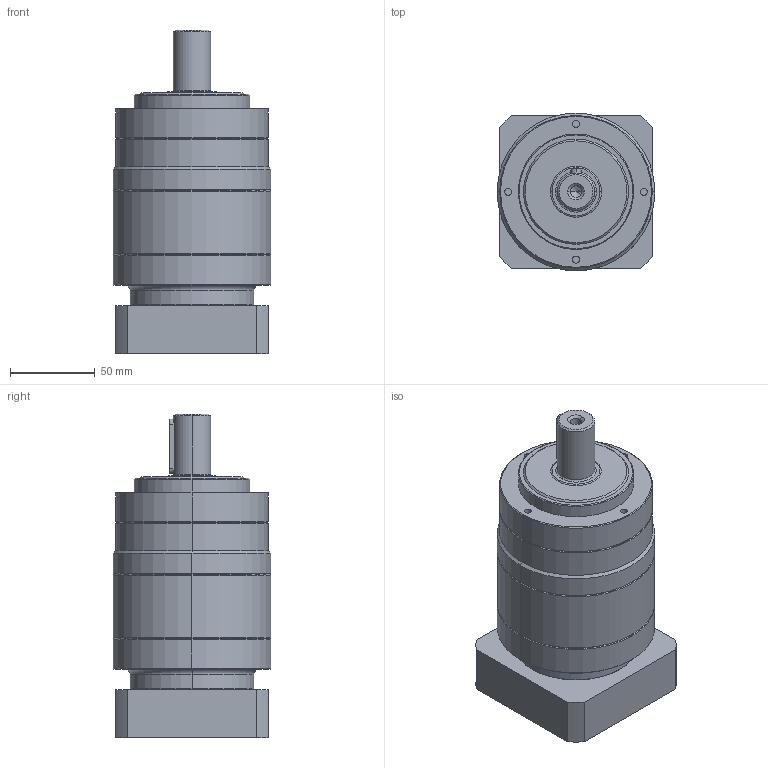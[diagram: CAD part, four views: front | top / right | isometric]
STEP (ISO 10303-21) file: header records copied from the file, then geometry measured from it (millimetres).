
FILE_DESCRIPTION (( 'STEP AP214' ), '1' );
FILE_NAME ('VRL-090-L2-S2-P1 19-70-90-M5.STEP', '2023-08-17T08:00:37', ( '微软用户' ), ( '微软中国' ), 'SwSTEP 2.0', 'SolidWorks 2018', '' );
FILE_SCHEMA (( 'AUTOMOTIVE_DESIGN' ));
Length unit declared in the file: millimetre
Products named in the file (1): VRL-090-L2-S2-P1 19-70-90-M5
Bounding box: 93 x 93 x 191 mm (x, y, z)
Volume: 952246.8 mm3; surface area: 81100.1 mm2
Topology: 1 solids, 1 shells, 115 faces, 245 edges, 149 vertices
Faces by surface type: cylinder 49, cone 30, plane 30, torus 6
Entity records: 3211 total; most frequent: DIRECTION 605, CARTESIAN_POINT 571, ORIENTED_EDGE 486, AXIS2_PLACEMENT_3D 249, EDGE_CURVE 243, VERTEX_POINT 149, EDGE_LOOP 134, CIRCLE 133
